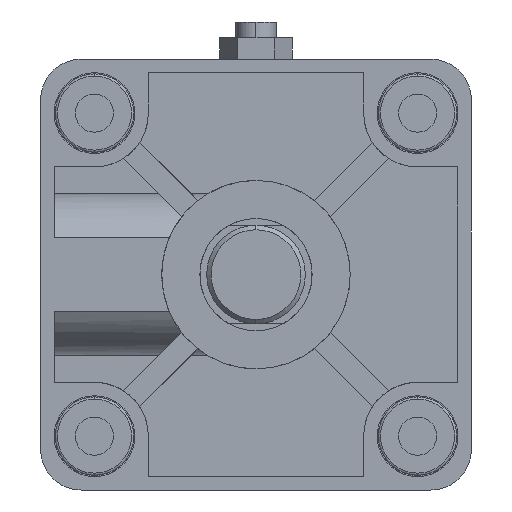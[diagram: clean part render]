
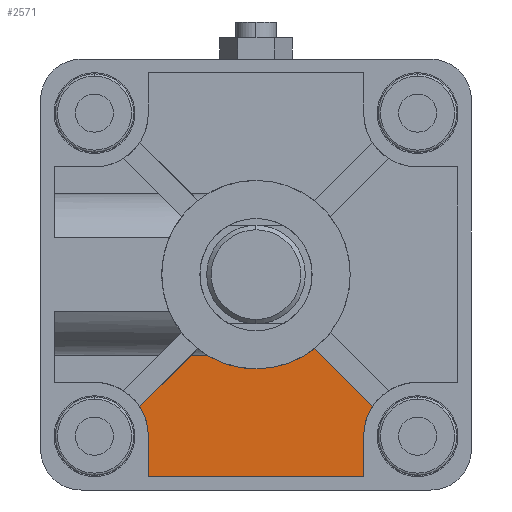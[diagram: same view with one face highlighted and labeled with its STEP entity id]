
A CAD part, left-side view. The second image highlights one B-rep face of the part: STEP entity #2571.
In plain terms, the highlighted planar face has unit normal (-1, 0, 0) as drawn and (1, 0, 0) by its records, which use the part's own axes.
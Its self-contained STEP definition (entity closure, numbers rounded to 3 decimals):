
#124 = VECTOR ( 'NONE', #5910, 1000. ) ;
#153 = DIRECTION ( 'NONE',  ( 0., 0., -1. ) ) ;
#188 = CARTESIAN_POINT ( 'NONE',  ( -3., 24., 45. ) ) ;
#303 = CARTESIAN_POINT ( 'NONE',  ( -3., 0., 0. ) ) ;
#306 = VECTOR ( 'NONE', #5031, 1000. ) ;
#490 = VERTEX_POINT ( 'NONE', #5765 ) ;
#500 = ORIENTED_EDGE ( 'NONE', *, *, #4376, .F. ) ;
#607 = AXIS2_PLACEMENT_3D ( 'NONE', #303, #3787, #6458 ) ;
#638 = LINE ( 'NONE', #5597, #306 ) ;
#815 = DIRECTION ( 'NONE',  ( -1., 0., 0. ) ) ;
#1002 = VERTEX_POINT ( 'NONE', #2446 ) ;
#1187 = DIRECTION ( 'NONE',  ( 0., 0., 1. ) ) ;
#1214 = CARTESIAN_POINT ( 'NONE',  ( -3., -36., 36. ) ) ;
#1273 = EDGE_CURVE ( 'NONE', #5190, #8464, #1720, .T. ) ;
#1557 = EDGE_CURVE ( 'NONE', #7141, #1002, #2497, .T. ) ;
#1720 = LINE ( 'NONE', #6208, #2724 ) ;
#1806 = DIRECTION ( 'NONE',  ( 0., -1., 0. ) ) ;
#1866 = EDGE_CURVE ( 'NONE', #5487, #8464, #8781, .T. ) ;
#2075 = CARTESIAN_POINT ( 'NONE',  ( -3., 24., 0. ) ) ;
#2195 = CARTESIAN_POINT ( 'NONE',  ( -3., 36., 36. ) ) ;
#2446 = CARTESIAN_POINT ( 'NONE',  ( -3., 24., 36. ) ) ;
#2497 = CIRCLE ( 'NONE', #5431, 12. ) ;
#2535 = ORIENTED_EDGE ( 'NONE', *, *, #1866, .T. ) ;
#2571 = ADVANCED_FACE ( 'NONE', ( #8579 ), #8133, .T. ) ;
#2724 = VECTOR ( 'NONE', #4895, 1000. ) ;
#2840 = VECTOR ( 'NONE', #8533, 1000. ) ;
#2967 = EDGE_CURVE ( 'NONE', #7141, #8525, #638, .T. ) ;
#3099 = VERTEX_POINT ( 'NONE', #5284 ) ;
#3116 = EDGE_CURVE ( 'NONE', #8525, #5753, #4977, .T. ) ;
#3339 = CARTESIAN_POINT ( 'NONE',  ( -3., 11.225, 17.748 ) ) ;
#3531 = AXIS2_PLACEMENT_3D ( 'NONE', #9259, #815, #6962 ) ;
#3787 = DIRECTION ( 'NONE',  ( -1., 0., 0. ) ) ;
#3850 = AXIS2_PLACEMENT_3D ( 'NONE', #6757, #7066, #153 ) ;
#3906 = ORIENTED_EDGE ( 'NONE', *, *, #1273, .F. ) ;
#3961 = CIRCLE ( 'NONE', #607, 21. ) ;
#4187 = CARTESIAN_POINT ( 'NONE',  ( -3., 1.768, 1.768 ) ) ;
#4227 = CIRCLE ( 'NONE', #3531, 21. ) ;
#4376 = EDGE_CURVE ( 'NONE', #9005, #3099, #5811, .T. ) ;
#4489 = CARTESIAN_POINT ( 'NONE',  ( -3., 14.213, 17.748 ) ) ;
#4700 = VECTOR ( 'NONE', #1187, 1000. ) ;
#4743 = CARTESIAN_POINT ( 'NONE',  ( -3., 0., 45. ) ) ;
#4754 = EDGE_CURVE ( 'NONE', #1002, #5487, #8529, .T. ) ;
#4763 = CARTESIAN_POINT ( 'NONE',  ( -3., -12.976, 16.511 ) ) ;
#4895 = DIRECTION ( 'NONE',  ( 0., 0., 1. ) ) ;
#4954 = EDGE_LOOP ( 'NONE', ( #500, #6415, #9310, #7358, #6677, #5989, #8517, #2535, #3906, #6883 ) ) ;
#4977 = LINE ( 'NONE', #7052, #7780 ) ;
#4986 = CIRCLE ( 'NONE', #7626, 12. ) ;
#5031 = DIRECTION ( 'NONE',  ( 0., -0.707, -0.707 ) ) ;
#5190 = VERTEX_POINT ( 'NONE', #7560 ) ;
#5284 = CARTESIAN_POINT ( 'NONE',  ( -3., -25.933, 29.469 ) ) ;
#5431 = AXIS2_PLACEMENT_3D ( 'NONE', #2195, #6999, #5642 ) ;
#5487 = VERTEX_POINT ( 'NONE', #188 ) ;
#5554 = CARTESIAN_POINT ( 'NONE',  ( -3., -24., 45. ) ) ;
#5597 = CARTESIAN_POINT ( 'NONE',  ( -3., -1.768, 1.768 ) ) ;
#5642 = DIRECTION ( 'NONE',  ( 0., 0., -1. ) ) ;
#5753 = VERTEX_POINT ( 'NONE', #3339 ) ;
#5765 = CARTESIAN_POINT ( 'NONE',  ( -3., 0., 21. ) ) ;
#5811 = LINE ( 'NONE', #4187, #2840 ) ;
#5910 = DIRECTION ( 'NONE',  ( 0., -1., 0. ) ) ;
#5989 = ORIENTED_EDGE ( 'NONE', *, *, #1557, .T. ) ;
#6191 = CARTESIAN_POINT ( 'NONE',  ( -3., 25.933, 29.469 ) ) ;
#6208 = CARTESIAN_POINT ( 'NONE',  ( -3., -24., 0. ) ) ;
#6415 = ORIENTED_EDGE ( 'NONE', *, *, #7576, .T. ) ;
#6441 = DIRECTION ( 'NONE',  ( 1., 0., 0. ) ) ;
#6458 = DIRECTION ( 'NONE',  ( 0., 0., -1. ) ) ;
#6677 = ORIENTED_EDGE ( 'NONE', *, *, #2967, .F. ) ;
#6742 = EDGE_CURVE ( 'NONE', #490, #5753, #4227, .T. ) ;
#6757 = CARTESIAN_POINT ( 'NONE',  ( -3., 0., 0. ) ) ;
#6857 = EDGE_CURVE ( 'NONE', #3099, #5190, #4986, .T. ) ;
#6883 = ORIENTED_EDGE ( 'NONE', *, *, #6857, .F. ) ;
#6962 = DIRECTION ( 'NONE',  ( 0., 0., -1. ) ) ;
#6999 = DIRECTION ( 'NONE',  ( -1., 0., 0. ) ) ;
#7052 = CARTESIAN_POINT ( 'NONE',  ( -3., -48.166, 17.748 ) ) ;
#7066 = DIRECTION ( 'NONE',  ( 1., 0., 0. ) ) ;
#7141 = VERTEX_POINT ( 'NONE', #6191 ) ;
#7202 = DIRECTION ( 'NONE',  ( 0., 0., -1. ) ) ;
#7358 = ORIENTED_EDGE ( 'NONE', *, *, #3116, .F. ) ;
#7560 = CARTESIAN_POINT ( 'NONE',  ( -3., -24., 36. ) ) ;
#7576 = EDGE_CURVE ( 'NONE', #9005, #490, #3961, .T. ) ;
#7626 = AXIS2_PLACEMENT_3D ( 'NONE', #1214, #6441, #7202 ) ;
#7780 = VECTOR ( 'NONE', #1806, 1000. ) ;
#8133 = PLANE ( 'NONE',  #3850 ) ;
#8464 = VERTEX_POINT ( 'NONE', #5554 ) ;
#8517 = ORIENTED_EDGE ( 'NONE', *, *, #4754, .T. ) ;
#8525 = VERTEX_POINT ( 'NONE', #4489 ) ;
#8529 = LINE ( 'NONE', #2075, #4700 ) ;
#8533 = DIRECTION ( 'NONE',  ( 0., -0.707, 0.707 ) ) ;
#8579 = FACE_OUTER_BOUND ( 'NONE', #4954, .T. ) ;
#8781 = LINE ( 'NONE', #4743, #124 ) ;
#9005 = VERTEX_POINT ( 'NONE', #4763 ) ;
#9259 = CARTESIAN_POINT ( 'NONE',  ( -3., 0., 0. ) ) ;
#9310 = ORIENTED_EDGE ( 'NONE', *, *, #6742, .T. ) ;
